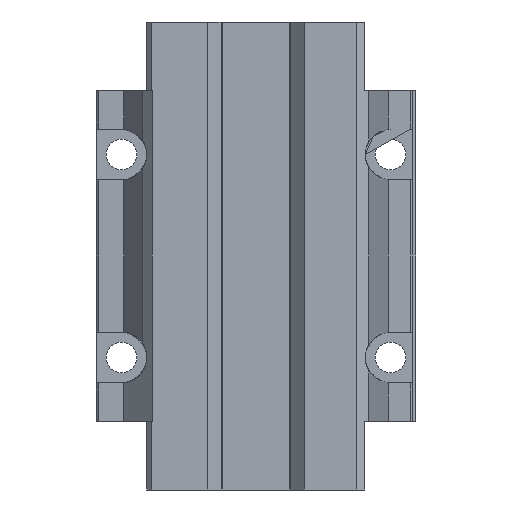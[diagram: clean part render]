
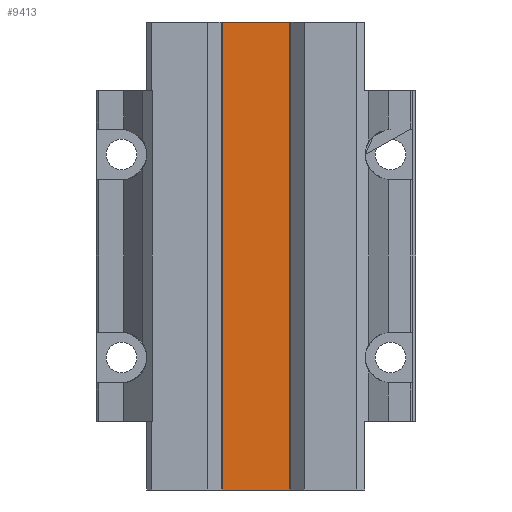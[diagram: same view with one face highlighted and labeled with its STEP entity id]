
A CAD part, front view. The second image highlights one B-rep face of the part: STEP entity #9413.
In plain terms, the highlighted planar face has unit normal (0, -1, 0).
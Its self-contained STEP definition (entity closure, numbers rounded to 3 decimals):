
#399 = DIRECTION ( 'NONE',  ( -1., 0., 0. ) ) ;
#474 = VERTEX_POINT ( 'NONE', #2034 ) ;
#706 = LINE ( 'NONE', #1635, #8516 ) ;
#1008 = CARTESIAN_POINT ( 'NONE',  ( 7.231, 0., 46.101 ) ) ;
#1503 = EDGE_CURVE ( 'NONE', #9191, #474, #5046, .T. ) ;
#1635 = CARTESIAN_POINT ( 'NONE',  ( -7.231, 0., 46.1 ) ) ;
#1838 = CARTESIAN_POINT ( 'NONE',  ( -7.231, 0., 46.1 ) ) ;
#2034 = CARTESIAN_POINT ( 'NONE',  ( 7.231, 0., -46.1 ) ) ;
#2408 = DIRECTION ( 'NONE',  ( 1., 0., 0. ) ) ;
#2483 = VERTEX_POINT ( 'NONE', #9412 ) ;
#2592 = CARTESIAN_POINT ( 'NONE',  ( -7.231, 0., -46.1 ) ) ;
#2750 = VECTOR ( 'NONE', #8126, 1000. ) ;
#2884 = ORIENTED_EDGE ( 'NONE', *, *, #7302, .T. ) ;
#3038 = VECTOR ( 'NONE', #8662, 1000. ) ;
#3206 = LINE ( 'NONE', #8816, #2750 ) ;
#3938 = CARTESIAN_POINT ( 'NONE',  ( -7.231, 0., -46.1 ) ) ;
#4647 = EDGE_CURVE ( 'NONE', #2483, #474, #9325, .T. ) ;
#4950 = DIRECTION ( 'NONE',  ( 0., 1., 0. ) ) ;
#5046 = LINE ( 'NONE', #2592, #3038 ) ;
#5250 = VERTEX_POINT ( 'NONE', #1838 ) ;
#5524 = VECTOR ( 'NONE', #7893, 1000. ) ;
#6092 = ORIENTED_EDGE ( 'NONE', *, *, #4647, .F. ) ;
#6170 = EDGE_LOOP ( 'NONE', ( #2884, #7852, #6092, #6682 ) ) ;
#6682 = ORIENTED_EDGE ( 'NONE', *, *, #9150, .F. ) ;
#7195 = PLANE ( 'NONE',  #7526 ) ;
#7302 = EDGE_CURVE ( 'NONE', #5250, #9191, #3206, .T. ) ;
#7526 = AXIS2_PLACEMENT_3D ( 'NONE', #9489, #4950, #399 ) ;
#7852 = ORIENTED_EDGE ( 'NONE', *, *, #1503, .T. ) ;
#7893 = DIRECTION ( 'NONE',  ( 0., 0., -1. ) ) ;
#8126 = DIRECTION ( 'NONE',  ( 0., 0., -1. ) ) ;
#8516 = VECTOR ( 'NONE', #2408, 1000. ) ;
#8629 = FACE_OUTER_BOUND ( 'NONE', #6170, .T. ) ;
#8662 = DIRECTION ( 'NONE',  ( 1., 0., 0. ) ) ;
#8816 = CARTESIAN_POINT ( 'NONE',  ( -7.231, 0., 46.101 ) ) ;
#9150 = EDGE_CURVE ( 'NONE', #5250, #2483, #706, .T. ) ;
#9191 = VERTEX_POINT ( 'NONE', #3938 ) ;
#9325 = LINE ( 'NONE', #1008, #5524 ) ;
#9412 = CARTESIAN_POINT ( 'NONE',  ( 7.231, 0., 46.1 ) ) ;
#9413 = ADVANCED_FACE ( 'NONE', ( #8629 ), #7195, .F. ) ;
#9489 = CARTESIAN_POINT ( 'NONE',  ( -7.231, 0., 46.101 ) ) ;
